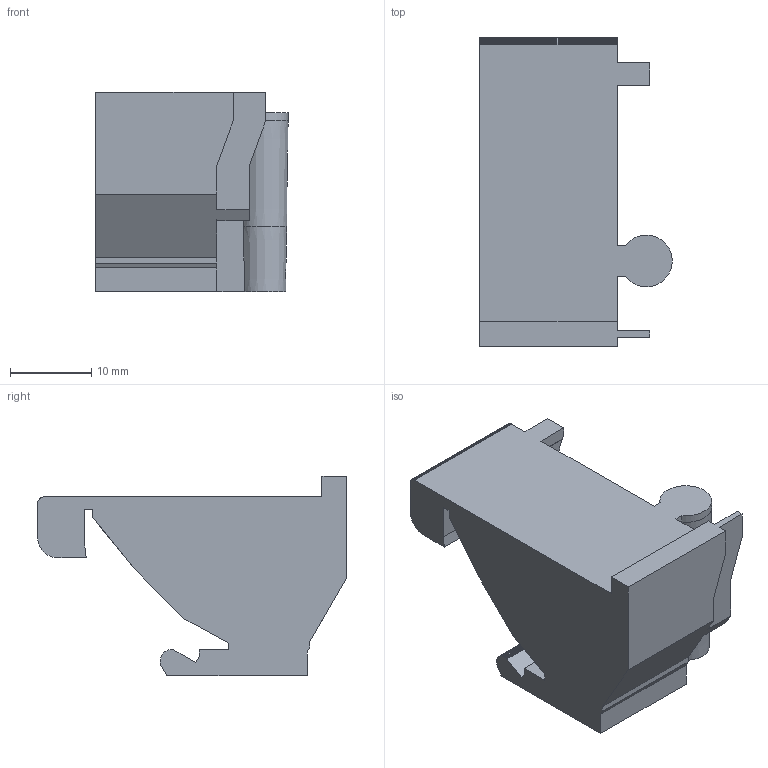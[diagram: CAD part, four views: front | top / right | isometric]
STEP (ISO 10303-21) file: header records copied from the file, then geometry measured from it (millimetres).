
FILE_DESCRIPTION(('Open CASCADE Model'),'2;1');
FILE_NAME('Open CASCADE Shape Model','2026-10-23T12:30:16',('Author'),( 'Open CASCADE'),'Open CASCADE STEP processor 8.0','build123d', 'Unknown');
FILE_SCHEMA(('AUTOMOTIVE_DESIGN { 1 0 10303 214 1 1 1 1 }'));
Length unit declared in the file: millimetre
Products named in the file (1): SOLID
Bounding box: 23.68 x 38 x 24.5 mm (x, y, z)
Volume: 9445.8 mm3; surface area: 3969.7 mm2
Topology: 1 solids, 1 shells, 103 faces, 303 edges, 202 vertices
Faces by surface type: plane 98, cone 3, bspline 2
Entity records: 6932 total; most frequent: CARTESIAN_POINT 1925, ORIENTED_EDGE 606, PCURVE 606, DEFINITIONAL_REPRESENTATION 606, DIRECTION 576, B_SPLINE_CURVE_WITH_KNOTS 541, LINE 362, VECTOR 362
